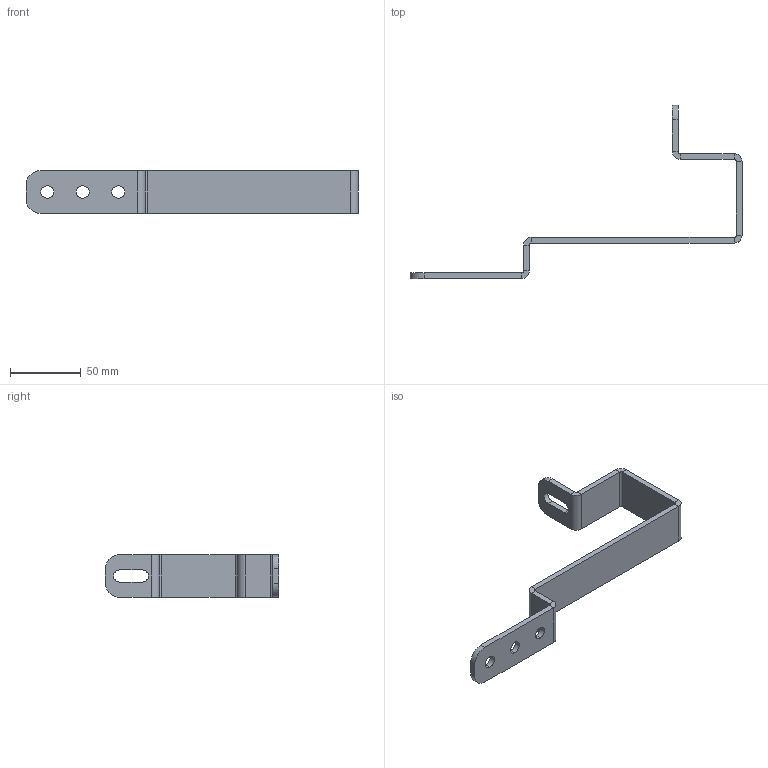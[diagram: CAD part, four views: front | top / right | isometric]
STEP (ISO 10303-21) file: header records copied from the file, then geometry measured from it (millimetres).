
FILE_DESCRIPTION (( 'STEP AP203' ), '1' );
FILE_NAME ('084.106.136.STEP', '2013-01-23T10:29:06', ( 'Alusic' ), ( 'Alusic' ), 'SwSTEP 2.0', 'SolidWorks 2011', '' );
FILE_SCHEMA (( 'CONFIG_CONTROL_DESIGN' ));
Length unit declared in the file: millimetre
Products named in the file (1): 084.106.136
Bounding box: 234 x 122 x 30 mm (x, y, z)
Volume: 44860.9 mm3; surface area: 26291.8 mm2
Topology: 1 solids, 1 shells, 60 faces, 134 edges, 76 vertices
Faces by surface type: plane 38, cylinder 22
Entity records: 1715 total; most frequent: DIRECTION 300, CARTESIAN_POINT 271, ORIENTED_EDGE 268, EDGE_CURVE 134, AXIS2_PLACEMENT_3D 105, LINE 90, VECTOR 90, VERTEX_POINT 76
